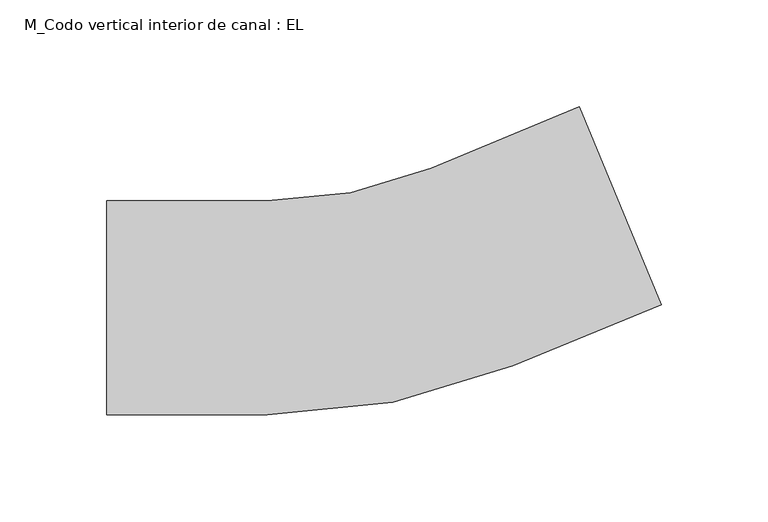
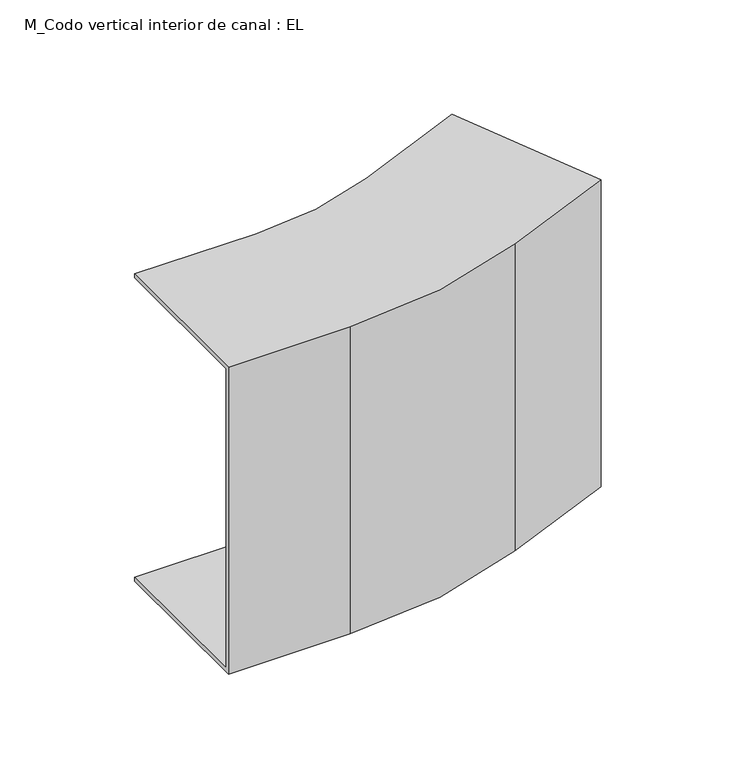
"""IFC4 building model written with IfcOpenShell, lengths in millimetres: cable carrier fitting geometry, M_Codo vertical interior de canal : EL."""

from ifc_helpers import new_model, si_unit, frame, origin, place, context, project, spatial, polyline, circle_curve, source, transform, mapped, element, save
from ifc_brep_helpers import plane_surface, cylinder_surface, revolved_surface, advanced_brep


def m_codo_vertical_interior_de_canal_el_7eac9073(model_context):
    return source(origin(), model_context, "Body", "AdvancedBrep", [
        advanced_brep(
        [(-124.7280918, 50.0, 100.0), (-124.7280918, 50.0, 97.46), (-124.7280918, -47.46, 97.46), (-124.7280918, -47.46, -97.46), (-124.7280918, 50.0, -97.46), (-124.7280918, 50.0, -100.0), (-124.7280918, -50.0, -100.0), (-124.7280918, -50.0, 100.0), (96.0995596, 93.9253509, 100.0), (134.3679028, 1.5373977, 100.0), (134.3679028, 1.5373977, -100.0), (96.0995596, 93.9253509, -100.0), (96.0995596, 93.9253509, -97.46), (133.3958869, 3.8840517, -97.46), (133.3958869, 3.8840517, 97.46), (96.0995596, 93.9253509, 97.46), (-49.7280918, -50.0, 100.0), (65.0769379, -27.1638598, 100.0), (26.8085946, 65.2240935, 100.0), (-49.7280918, 50.0, 100.0), (-49.7280918, -50.0, -100.0), (-49.7280918, 50.0, -100.0), (26.8085946, 65.2240935, -100.0), (65.0769379, -27.1638598, -100.0), (-49.7280918, 50.0, -97.46), (-49.7280918, -47.46, -97.46), (64.104922, -24.8172058, -97.46), (26.8085946, 65.2240935, -97.46), (-49.7280918, -47.46, 97.46), (-49.7280918, 50.0, 97.46), (26.8085946, 65.2240935, 97.46), (64.104922, -24.8172058, 97.46)],
        [
            (0, 1),
            (1, 2),
            (2, 3),
            (3, 4),
            (4, 5),
            (5, 6),
            (6, 7),
            (7, 0),
            (8, 9),
            (9, 10),
            (10, 11),
            (11, 12),
            (12, 13),
            (13, 14),
            (14, 15),
            (15, 8),
            (7, 16),
            (16, 17, circle_curve(frame((-49.7280918, 250.0, 100.0), z_axis=(0.0, 0.0, 1.0), x_axis=(0.0, -1.0, 0.0)), 300.0)),
            (17, 9),
            (8, 18),
            (18, 19, circle_curve(frame((-49.7280918, 250.0, 100.0), z_axis=(0.0, 0.0, -1.0), x_axis=(0.0, -1.0, 0.0)), 200.0)),
            (19, 0),
            (6, 20),
            (20, 16),
            (5, 21),
            (21, 22, circle_curve(frame((-49.7280918, 250.0, -100.0), z_axis=(0.0, 0.0, 1.0), x_axis=(0.0, -1.0, 0.0)), 200.0)),
            (22, 11),
            (10, 23),
            (23, 20, circle_curve(frame((-49.7280918, 250.0, -100.0), z_axis=(0.0, 0.0, -1.0), x_axis=(0.0, -1.0, 0.0)), 300.0)),
            (4, 24),
            (24, 21),
            (3, 25),
            (25, 26, circle_curve(frame((-49.7280918, 250.0, -97.46), z_axis=(0.0, 0.0, 1.0), x_axis=(0.0, -1.0, 0.0)), 297.46)),
            (26, 13),
            (12, 27),
            (27, 24, circle_curve(frame((-49.7280918, 250.0, -97.46), z_axis=(0.0, 0.0, -1.0), x_axis=(0.0, -1.0, 0.0)), 200.0)),
            (2, 28),
            (28, 25),
            (1, 29),
            (29, 30, circle_curve(frame((-49.7280918, 250.0, 97.46), z_axis=(0.0, 0.0, 1.0), x_axis=(0.0, -1.0, 0.0)), 200.0)),
            (30, 15),
            (14, 31),
            (31, 28, circle_curve(frame((-49.7280918, 250.0, 97.46), z_axis=(0.0, 0.0, -1.0), x_axis=(0.0, -1.0, 0.0)), 297.46)),
            (19, 29),
            (23, 17),
            (27, 22),
            (31, 26),
            (18, 30),
        ],
        [
            plane_surface(frame((-124.7280918, 0.0, 0.0), z_axis=(-1.0, 0.0, 0.0), x_axis=(0.0, 0.0, 1.0))),
            plane_surface(frame((115.2337312, 47.7313743, 0.0), z_axis=(0.9238795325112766, 0.3826834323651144, 0.0), x_axis=(0.0, 0.0, 1.0))),
            plane_surface(frame((-124.7280918, -50.0, 100.0), z_axis=(0.0, 0.0, 1.0), x_axis=(1.0, 0.0, 0.0))),
            plane_surface(frame((-124.7280918, -50.0, -100.0), z_axis=(0.0, -1.0, 0.0), x_axis=(1.0, 0.0, 0.0))),
            plane_surface(frame((-124.7280918, 50.0, -100.0), z_axis=(0.0, 0.0, -1.0), x_axis=(1.0, 0.0, 0.0))),
            plane_surface(frame((-124.7280918, 50.0, -97.46), z_axis=(0.0, 1.0, 0.0), x_axis=(1.0, 0.0, 0.0))),
            plane_surface(frame((-124.7280918, -47.46, -97.46), z_axis=(0.0, 0.0, 1.0), x_axis=(1.0, 0.0, 0.0))),
            plane_surface(frame((-124.7280918, -47.46, 97.46), z_axis=(0.0, 1.0, 0.0), x_axis=(1.0, 0.0, 0.0))),
            plane_surface(frame((-124.7280918, 50.0, 97.46), z_axis=(0.0, 0.0, -1.0), x_axis=(1.0, 0.0, 0.0))),
            plane_surface(frame((-124.7280918, 50.0, 100.0), z_axis=(0.0, 1.0, 0.0), x_axis=(1.0, 0.0, 0.0))),
            cylinder_surface(frame((-49.7280918, 250.0, 0.0), z_axis=(0.0, 0.0, 1.0), x_axis=(0.0, -1.0, 0.0)), 300.0),
            revolved_surface(polyline([(-49.7280918, 50.0, -97.46), (-49.7280918, 50.0, -100.0)]), (-49.7280918, 250.0, 0.0), (0.0, 0.0, 1.0)),
            revolved_surface(polyline([(-49.7280918, -47.45999999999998, 97.46), (-49.7280918, -47.45999999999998, -97.46)]), (-49.7280918, 250.0, 0.0), (0.0, 0.0, 1.0)),
            revolved_surface(polyline([(-49.7280918, 50.0, 100.0), (-49.7280918, 50.0, 97.46)]), (-49.7280918, 250.0, 0.0), (0.0, 0.0, 1.0)),
            plane_surface(frame((65.0769379, -27.1638598, -100.0), z_axis=(0.38268343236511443, -0.9238795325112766, 0.0), x_axis=(0.9238795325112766, 0.38268343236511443, 0.0))),
            plane_surface(frame((26.8085946, 65.2240935, -97.46), z_axis=(-0.38268343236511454, 0.9238795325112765, 0.0), x_axis=(0.9238795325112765, 0.38268343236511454, 0.0))),
            plane_surface(frame((64.104922, -24.8172058, 97.46), z_axis=(-0.3826834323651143, 0.9238795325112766, 0.0), x_axis=(0.9238795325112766, 0.3826834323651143, 0.0))),
            plane_surface(frame((26.8085946, 65.2240935, 100.0), z_axis=(-0.38268343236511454, 0.9238795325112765, 0.0), x_axis=(0.9238795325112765, 0.38268343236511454, 0.0))),
        ],
        [
            (0, [[1, 2, 3, 4, 5, 6, 7, 8]]),
            (1, [[9, 10, 11, 12, 13, 14, 15, 16]]),
            (2, [[-8, 17, 18, 19, -9, 20, 21, 22]]),
            (3, [[-7, 23, 24, -17]]),
            (4, [[-6, 25, 26, 27, -11, 28, 29, -23]]),
            (5, [[-5, 30, 31, -25]]),
            (6, [[-4, 32, 33, 34, -13, 35, 36, -30]]),
            (7, [[-3, 37, 38, -32]]),
            (8, [[-2, 39, 40, 41, -15, 42, 43, -37]]),
            (9, [[-1, -22, 44, -39]]),
            (10, [[-18, -24, -29, 45]]),
            (11, [[-26, -31, -36, 46]]),
            (12, [[-33, -38, -43, 47]]),
            (13, [[-40, -44, -21, 48]]),
            (14, [[-45, -28, -10, -19]]),
            (15, [[-46, -35, -12, -27]]),
            (16, [[-47, -42, -14, -34]]),
            (17, [[-48, -20, -16, -41]]),
        ],
    ),
    ])


if __name__ == "__main__":
    model = new_model("IFC4")
    model_context = context("Model", 3, world=origin())
    ifc_project = project(units=[si_unit("LENGTHUNIT", "METRE", prefix="MILLI")], contexts=[model_context])
    site = spatial("IfcSite", under=ifc_project)
    building = spatial("IfcBuilding", under=site)
    placement = place(None, origin())
    m_codo_vertical_interior_de_canal_el_shape = m_codo_vertical_interior_de_canal_el_7eac9073(model_context)
    element("IfcCableCarrierFitting", 1, ObjectType="M_Codo vertical interior de canal : EL", at=placement, inside=building, context=model_context, shape_type="MappedRepresentation", body=[
        mapped(m_codo_vertical_interior_de_canal_el_shape, transform((0.0, 0.0, 0.0), x_axis=(1.0, 0.0, 0.0), y_axis=(0.0, 1.0, 0.0), z_axis=(0.0, 0.0, 1.0))),
    ])
    save(model, "model.ifc")
